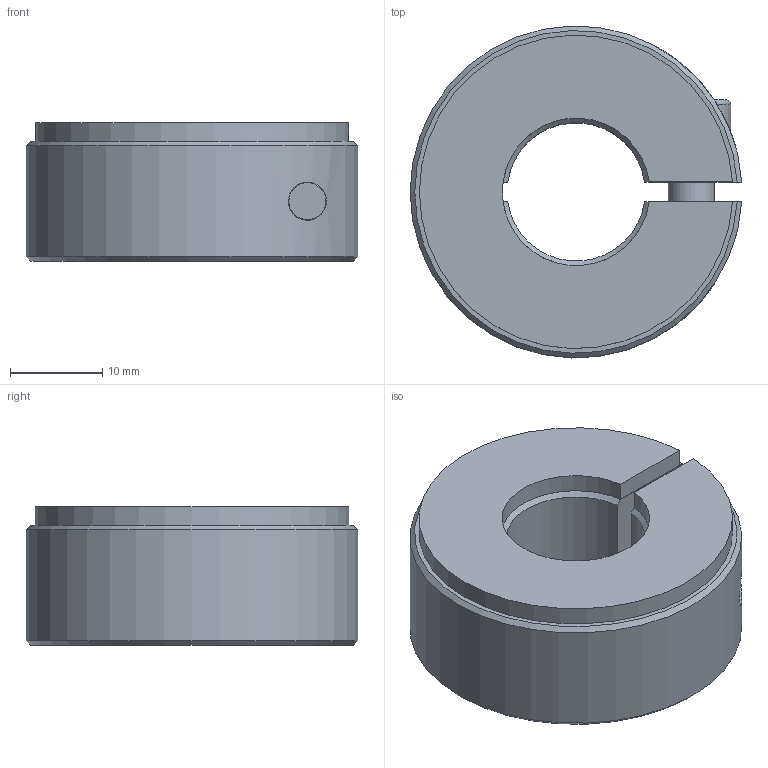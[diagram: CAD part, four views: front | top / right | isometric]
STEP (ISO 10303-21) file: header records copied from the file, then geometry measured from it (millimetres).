
FILE_DESCRIPTION( ( 'STEP AP203' ), '1' );
FILE_NAME( 'C:/Temp/Ganter_Step_05_03_2020/data/3_2/gn7062_3/Semi-split Stainless Steel-Set collar GN 7062.3-36-B15-NI.stp', '2020-03-13T05:40:23', ( 'License CC BY-ND 4.0' ), ( 'CADENAS' ), ' ', 'PARTsolutions', ' ' );
FILE_SCHEMA( ( 'CONFIG_CONTROL_DESIGN' ) );
Length unit declared in the file: millimetre
Products named in the file (1): _Semi-split Stainless Steel-Set collar GN 7062.3-36-B15-NI
Bounding box: 35.97 x 35.98 x 15 mm (x, y, z)
Volume: 11562.8 mm3; surface area: 4840 mm2
Topology: 1 solids, 1 shells, 40 faces, 95 edges, 62 vertices
Faces by surface type: plane 21, cylinder 11, cone 7, torus 1
Full cylindrical faces by diameter (mm): 4.134 x1, 5 x1, 5.4 x1, 8.5 x1, 9 x1
Entity records: 1282 total; most frequent: CARTESIAN_POINT 345, DIRECTION 184, ORIENTED_EDGE 172, EDGE_CURVE 86, AXIS2_PLACEMENT_3D 71, VERTEX_POINT 60, EDGE_LOOP 54, FACE_OUTER_BOUND 46
